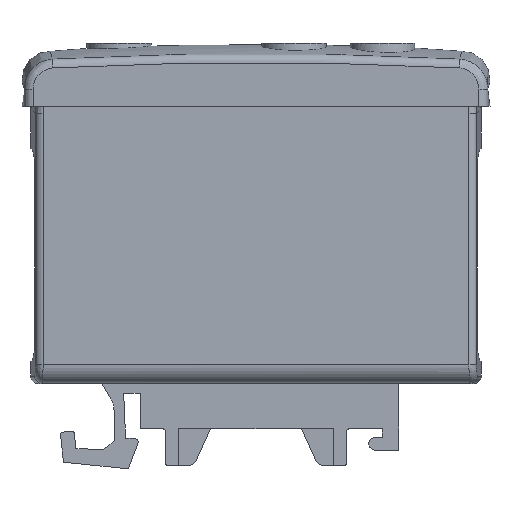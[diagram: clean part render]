
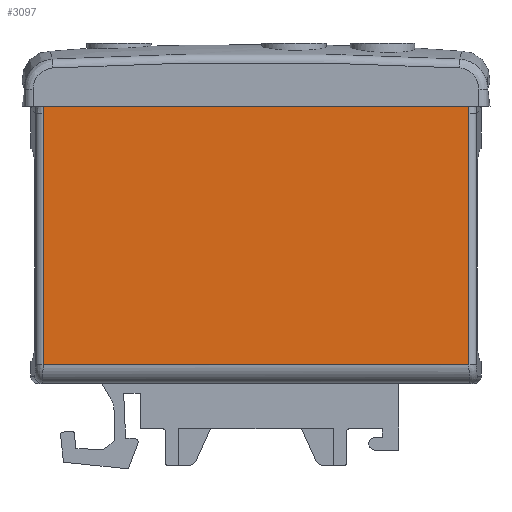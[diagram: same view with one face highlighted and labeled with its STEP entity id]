
A CAD part, front view. The second image highlights one B-rep face of the part: STEP entity #3097.
In plain terms, the highlighted planar face has unit normal (0, -1, 0).
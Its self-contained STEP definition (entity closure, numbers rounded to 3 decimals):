
#86=B_SPLINE_CURVE_WITH_KNOTS('',3,(#5294,#5295,#5296,#5297),
 .UNSPECIFIED.,.F.,.F.,(4,4),(0.,0.001),.UNSPECIFIED.);
#89=B_SPLINE_CURVE_WITH_KNOTS('',3,(#5364,#5365,#5366,#5367),
 .UNSPECIFIED.,.F.,.F.,(4,4),(0.01,0.011),
 .UNSPECIFIED.);
#961=ORIENTED_EDGE('',*,*,#1483,.F.);
#962=ORIENTED_EDGE('',*,*,#1482,.T.);
#963=ORIENTED_EDGE('',*,*,#1484,.T.);
#964=ORIENTED_EDGE('',*,*,#1485,.F.);
#965=ORIENTED_EDGE('',*,*,#1435,.T.);
#966=ORIENTED_EDGE('',*,*,#1465,.T.);
#1435=EDGE_CURVE('',#1771,#1772,#2059,.F.);
#1465=EDGE_CURVE('',#1772,#1788,#86,.T.);
#1482=EDGE_CURVE('',#1796,#1798,#89,.T.);
#1483=EDGE_CURVE('',#1796,#1788,#2081,.T.);
#1484=EDGE_CURVE('',#1798,#1799,#2082,.T.);
#1485=EDGE_CURVE('',#1771,#1799,#2083,.T.);
#1771=VERTEX_POINT('',#5147);
#1772=VERTEX_POINT('',#5149);
#1788=VERTEX_POINT('',#5293);
#1796=VERTEX_POINT('',#5356);
#1798=VERTEX_POINT('',#5363);
#1799=VERTEX_POINT('',#5371);
#2059=LINE('',#5150,#2337);
#2081=LINE('',#5369,#2359);
#2082=LINE('',#5370,#2360);
#2083=LINE('',#5372,#2361);
#2337=VECTOR('',#4055,1000.);
#2359=VECTOR('',#4137,1000.);
#2360=VECTOR('',#4138,1000.);
#2361=VECTOR('',#4139,1000.);
#2579=EDGE_LOOP('',(#961,#962,#963,#964,#965,#966));
#2801=FACE_BOUND('',#2579,.T.);
#2930=PLANE('',#3373);
#3097=ADVANCED_FACE('',(#2801),#2930,.T.);
#3373=AXIS2_PLACEMENT_3D('',#5368,#4135,#4136);
#4055=DIRECTION('',(0.,0.,-1.));
#4135=DIRECTION('',(0.,-1.,0.));
#4136=DIRECTION('',(0.,0.,1.));
#4137=DIRECTION('',(1.,0.,0.));
#4138=DIRECTION('',(0.,0.,-1.));
#4139=DIRECTION('',(-1.,0.,0.));
#5147=CARTESIAN_POINT('',(28.409,-11.6,-20.));
#5149=CARTESIAN_POINT('',(28.409,-11.6,13.53));
#5150=CARTESIAN_POINT('',(28.409,-11.6,0.));
#5293=CARTESIAN_POINT('',(28.342,-11.6,14.5));
#5294=CARTESIAN_POINT('',(28.409,-11.6,13.53));
#5295=CARTESIAN_POINT('',(28.409,-11.6,13.856));
#5296=CARTESIAN_POINT('',(28.386,-11.6,14.179));
#5297=CARTESIAN_POINT('',(28.342,-11.6,14.5));
#5356=CARTESIAN_POINT('',(-28.342,-11.6,14.5));
#5363=CARTESIAN_POINT('',(-28.409,-11.6,13.53));
#5364=CARTESIAN_POINT('',(-28.342,-11.6,14.5));
#5365=CARTESIAN_POINT('',(-28.386,-11.6,14.18));
#5366=CARTESIAN_POINT('',(-28.409,-11.6,13.857));
#5367=CARTESIAN_POINT('',(-28.409,-11.6,13.53));
#5368=CARTESIAN_POINT('',(0.,-11.6,0.));
#5369=CARTESIAN_POINT('',(-39.318,-11.6,14.5));
#5370=CARTESIAN_POINT('',(-28.409,-11.6,0.));
#5371=CARTESIAN_POINT('',(-28.409,-11.6,-20.));
#5372=CARTESIAN_POINT('',(-29.35,-11.6,-20.));
